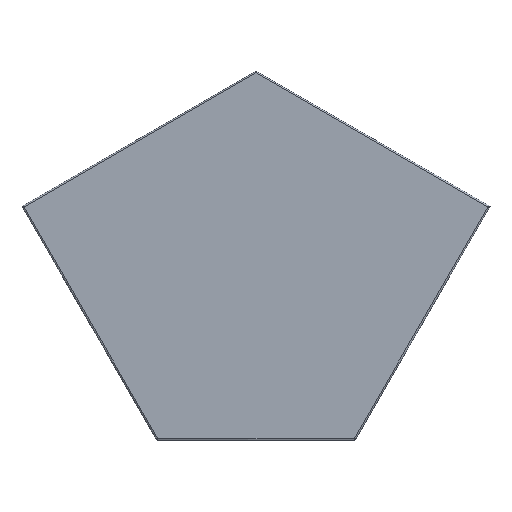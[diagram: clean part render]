
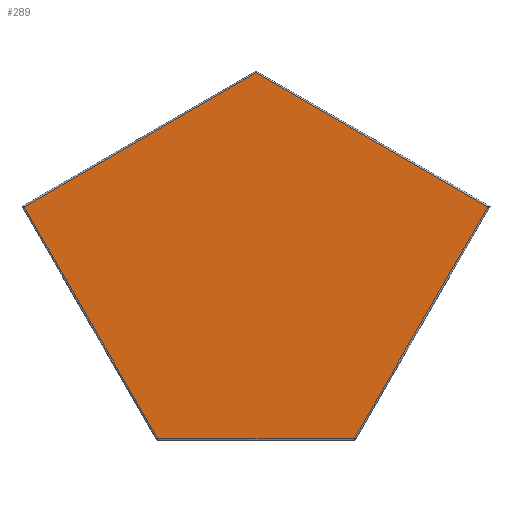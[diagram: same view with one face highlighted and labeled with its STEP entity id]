
A CAD part, top view. The second image highlights one B-rep face of the part: STEP entity #289.
In plain terms, the highlighted planar face has unit normal (0, 0, 1).
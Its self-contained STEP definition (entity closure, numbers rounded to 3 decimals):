
#289=ADVANCED_FACE('',(#540),#4082,.T.);
#540=FACE_OUTER_BOUND('',#812,.T.);
#812=EDGE_LOOP('',(#2093,#2094,#2095,#2096,#2097,#2098,#2099,#2100,#2101,
#2102));
#2093=ORIENTED_EDGE('',*,*,#2756,.F.);
#2094=ORIENTED_EDGE('',*,*,#2768,.T.);
#2095=ORIENTED_EDGE('',*,*,#2735,.F.);
#2096=ORIENTED_EDGE('',*,*,#2438,.F.);
#2097=ORIENTED_EDGE('',*,*,#2415,.F.);
#2098=ORIENTED_EDGE('',*,*,#2409,.T.);
#2099=ORIENTED_EDGE('',*,*,#2767,.F.);
#2100=ORIENTED_EDGE('',*,*,#2386,.F.);
#2101=ORIENTED_EDGE('',*,*,#2398,.F.);
#2102=ORIENTED_EDGE('',*,*,#2448,.F.);
#2386=EDGE_CURVE('',#3694,#3643,#3162,.T.);
#2398=EDGE_CURVE('',#3723,#3694,#3174,.T.);
#2409=EDGE_CURVE('',#3774,#3724,#3185,.T.);
#2415=EDGE_CURVE('',#3774,#3796,#3191,.T.);
#2438=EDGE_CURVE('',#3796,#3806,#3214,.T.);
#2448=EDGE_CURVE('',#3808,#3723,#3224,.T.);
#2735=EDGE_CURVE('',#3806,#3829,#3391,.T.);
#2756=EDGE_CURVE('',#3831,#3808,#3411,.T.);
#2767=EDGE_CURVE('',#3643,#3724,#3421,.T.);
#2768=EDGE_CURVE('',#3831,#3829,#2929,.T.);
#2929=(
BOUNDED_CURVE()
B_SPLINE_CURVE(2,(#7805,#7806,#7807,#7808,#7809),.UNSPECIFIED.,.F.,.F.)
B_SPLINE_CURVE_WITH_KNOTS((3,2,3),(-0.131,-0.065,
0.),.UNSPECIFIED.)
CURVE()
GEOMETRIC_REPRESENTATION_ITEM()
RATIONAL_B_SPLINE_CURVE((1.,0.817,1.,0.817,1.))
REPRESENTATION_ITEM('')
);
#3162=B_SPLINE_CURVE_WITH_KNOTS('',1,(#6624,#6625),.UNSPECIFIED.,.F.,.F.,
(2,2),(0.,0.614),.UNSPECIFIED.);
#3174=B_SPLINE_CURVE_WITH_KNOTS('',1,(#6692,#6693),.UNSPECIFIED.,.F.,.F.,
(2,2),(0.,260.916),.UNSPECIFIED.);
#3185=B_SPLINE_CURVE_WITH_KNOTS('',1,(#6722,#6723),.UNSPECIFIED.,.F.,.F.,
(2,2),(-0.614,0.),.UNSPECIFIED.);
#3191=B_SPLINE_CURVE_WITH_KNOTS('',1,(#6742,#6743),.UNSPECIFIED.,.F.,.F.,
(2,2),(0.,260.916),.UNSPECIFIED.);
#3214=B_SPLINE_CURVE_WITH_KNOTS('',1,(#6818,#6819),.UNSPECIFIED.,.F.,.F.,
(2,2),(0.,0.614),.UNSPECIFIED.);
#3224=B_SPLINE_CURVE_WITH_KNOTS('',1,(#6865,#6866),.UNSPECIFIED.,.F.,.F.,
(2,2),(0.,0.614),.UNSPECIFIED.);
#3391=B_SPLINE_CURVE_WITH_KNOTS('',1,(#7727,#7728),.UNSPECIFIED.,.F.,.F.,
(2,2),(0.,262.087),.UNSPECIFIED.);
#3411=B_SPLINE_CURVE_WITH_KNOTS('',1,(#7775,#7776),.UNSPECIFIED.,.F.,.F.,
(2,2),(0.,262.087),.UNSPECIFIED.);
#3421=B_SPLINE_CURVE_WITH_KNOTS('',1,(#7803,#7804),.UNSPECIFIED.,.F.,.F.,
(2,2),(0.,191.903),.UNSPECIFIED.);
#3643=VERTEX_POINT('',#6321);
#3694=VERTEX_POINT('',#6372);
#3723=VERTEX_POINT('',#6401);
#3724=VERTEX_POINT('',#6402);
#3774=VERTEX_POINT('',#6452);
#3796=VERTEX_POINT('',#6474);
#3806=VERTEX_POINT('',#6484);
#3808=VERTEX_POINT('',#6486);
#3829=VERTEX_POINT('',#6507);
#3831=VERTEX_POINT('',#6509);
#4082=PLANE('',#4392);
#4392=AXIS2_PLACEMENT_3D('',#6236,#4618,$);
#4618=DIRECTION('',(0.,0.,1.));
#6236=CARTESIAN_POINT('',(-284.157,-213.848,17.585));
#6321=CARTESIAN_POINT('',(84.343,-177.921,17.585));
#6372=CARTESIAN_POINT('',(84.65,-177.39,17.585));
#6401=CARTESIAN_POINT('',(215.108,48.57,17.585));
#6402=CARTESIAN_POINT('',(-107.56,-177.921,17.585));
#6452=CARTESIAN_POINT('',(-107.867,-177.39,17.585));
#6474=CARTESIAN_POINT('',(-238.325,48.57,17.585));
#6484=CARTESIAN_POINT('',(-238.632,49.102,17.585));
#6486=CARTESIAN_POINT('',(215.415,49.102,17.585));
#6507=CARTESIAN_POINT('',(-11.659,180.146,17.585));
#6509=CARTESIAN_POINT('',(-11.559,180.146,17.585));
#6624=CARTESIAN_POINT('',(84.65,-177.39,17.585));
#6625=CARTESIAN_POINT('',(84.343,-177.921,17.585));
#6692=CARTESIAN_POINT('',(215.108,48.57,17.585));
#6693=CARTESIAN_POINT('',(84.65,-177.39,17.585));
#6722=CARTESIAN_POINT('',(-107.867,-177.39,17.585));
#6723=CARTESIAN_POINT('',(-107.56,-177.921,17.585));
#6742=CARTESIAN_POINT('',(-107.867,-177.39,17.585));
#6743=CARTESIAN_POINT('',(-238.325,48.57,17.585));
#6818=CARTESIAN_POINT('',(-238.325,48.57,17.585));
#6819=CARTESIAN_POINT('',(-238.632,49.102,17.585));
#6865=CARTESIAN_POINT('',(215.415,49.102,17.585));
#6866=CARTESIAN_POINT('',(215.108,48.57,17.585));
#7727=CARTESIAN_POINT('',(-238.632,49.102,17.585));
#7728=CARTESIAN_POINT('',(-11.659,180.146,17.585));
#7775=CARTESIAN_POINT('',(-11.559,180.146,17.585));
#7776=CARTESIAN_POINT('',(215.415,49.102,17.585));
#7803=CARTESIAN_POINT('',(84.343,-177.921,17.585));
#7804=CARTESIAN_POINT('',(-107.56,-177.921,17.585));
#7805=CARTESIAN_POINT('',(-11.559,180.146,17.585));
#7806=CARTESIAN_POINT('',(-11.571,180.11,17.585));
#7807=CARTESIAN_POINT('',(-11.609,180.11,17.585));
#7808=CARTESIAN_POINT('',(-11.646,180.11,17.585));
#7809=CARTESIAN_POINT('',(-11.659,180.146,17.585));
